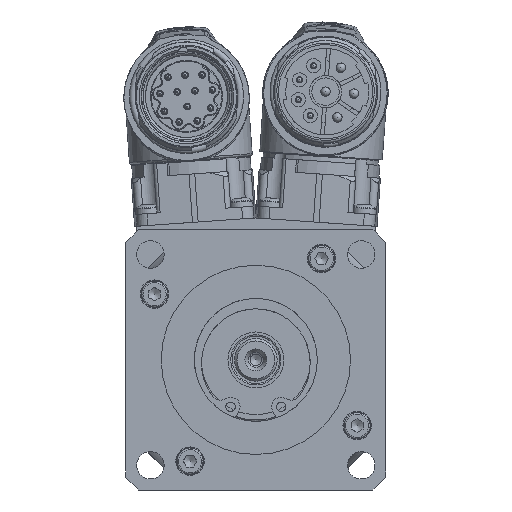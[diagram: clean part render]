
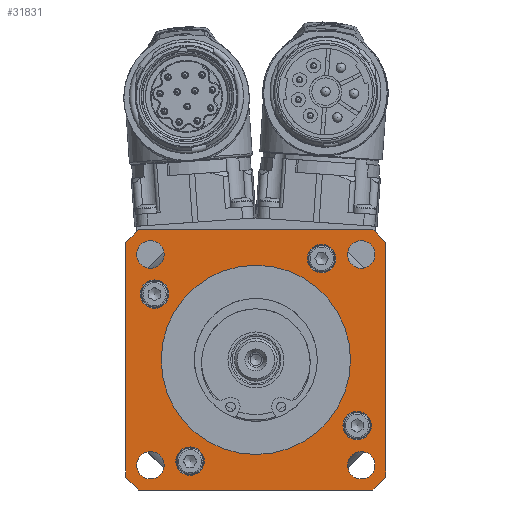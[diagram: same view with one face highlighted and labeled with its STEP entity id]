
A CAD part, left-side view. The second image highlights one B-rep face of the part: STEP entity #31831.
In plain terms, the highlighted planar face has unit normal (-1, 0, 0).
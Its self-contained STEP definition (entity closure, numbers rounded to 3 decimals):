
#1431=FACE_BOUND('',#4075,.T.);
#1432=FACE_BOUND('',#4076,.T.);
#1433=FACE_BOUND('',#4077,.T.);
#1434=FACE_BOUND('',#4078,.T.);
#1435=FACE_BOUND('',#4079,.T.);
#1436=FACE_BOUND('',#4080,.T.);
#1437=FACE_BOUND('',#4081,.T.);
#1438=FACE_BOUND('',#4082,.T.);
#1439=FACE_BOUND('',#4083,.T.);
#1683=PLANE('',#34023);
#2257=FACE_OUTER_BOUND('',#4074,.T.);
#4074=EDGE_LOOP('',(#20101,#20102,#20103,#20104,#20105,#20106,#20107,#20108));
#4075=EDGE_LOOP('',(#20109));
#4076=EDGE_LOOP('',(#20110));
#4077=EDGE_LOOP('',(#20111));
#4078=EDGE_LOOP('',(#20112));
#4079=EDGE_LOOP('',(#20113));
#4080=EDGE_LOOP('',(#20114));
#4081=EDGE_LOOP('',(#20115));
#4082=EDGE_LOOP('',(#20116));
#4083=EDGE_LOOP('',(#20117,#20118));
#6323=CIRCLE('',#34021,20.);
#6324=CIRCLE('',#34022,20.);
#6325=CIRCLE('',#34024,37.);
#6326=CIRCLE('',#34025,37.);
#6327=CIRCLE('',#34026,37.);
#6328=CIRCLE('',#34027,37.);
#6329=CIRCLE('',#34028,3.);
#6330=CIRCLE('',#34029,3.);
#6331=CIRCLE('',#34030,3.);
#6332=CIRCLE('',#34031,3.);
#6333=CIRCLE('',#34032,2.9);
#6334=CIRCLE('',#34033,2.9);
#6335=CIRCLE('',#34034,2.9);
#6336=CIRCLE('',#34035,2.9);
#8421=LINE('',#47816,#10057);
#8422=LINE('',#47820,#10058);
#8423=LINE('',#47824,#10059);
#8424=LINE('',#47828,#10060);
#10057=VECTOR('',#38331,10.);
#10058=VECTOR('',#38334,10.);
#10059=VECTOR('',#38337,10.);
#10060=VECTOR('',#38340,10.);
#11794=VERTEX_POINT('',#47808);
#11795=VERTEX_POINT('',#47809);
#11796=VERTEX_POINT('',#47814);
#11797=VERTEX_POINT('',#47815);
#11798=VERTEX_POINT('',#47817);
#11799=VERTEX_POINT('',#47819);
#11800=VERTEX_POINT('',#47821);
#11801=VERTEX_POINT('',#47823);
#11802=VERTEX_POINT('',#47825);
#11803=VERTEX_POINT('',#47827);
#11804=VERTEX_POINT('',#47830);
#11805=VERTEX_POINT('',#47832);
#11806=VERTEX_POINT('',#47834);
#11807=VERTEX_POINT('',#47836);
#11808=VERTEX_POINT('',#47838);
#11809=VERTEX_POINT('',#47840);
#11810=VERTEX_POINT('',#47842);
#11811=VERTEX_POINT('',#47844);
#15014=EDGE_CURVE('',#11794,#11795,#6323,.T.);
#15016=EDGE_CURVE('',#11795,#11794,#6324,.T.);
#15017=EDGE_CURVE('',#11796,#11797,#8421,.T.);
#15018=EDGE_CURVE('',#11798,#11796,#6325,.T.);
#15019=EDGE_CURVE('',#11799,#11798,#8422,.T.);
#15020=EDGE_CURVE('',#11800,#11799,#6326,.T.);
#15021=EDGE_CURVE('',#11801,#11800,#8423,.T.);
#15022=EDGE_CURVE('',#11802,#11801,#6327,.T.);
#15023=EDGE_CURVE('',#11803,#11802,#8424,.T.);
#15024=EDGE_CURVE('',#11797,#11803,#6328,.T.);
#15025=EDGE_CURVE('',#11804,#11804,#6329,.T.);
#15026=EDGE_CURVE('',#11805,#11805,#6330,.T.);
#15027=EDGE_CURVE('',#11806,#11806,#6331,.T.);
#15028=EDGE_CURVE('',#11807,#11807,#6332,.T.);
#15029=EDGE_CURVE('',#11808,#11808,#6333,.T.);
#15030=EDGE_CURVE('',#11809,#11809,#6334,.T.);
#15031=EDGE_CURVE('',#11810,#11810,#6335,.T.);
#15032=EDGE_CURVE('',#11811,#11811,#6336,.T.);
#20101=ORIENTED_EDGE('',*,*,#15017,.F.);
#20102=ORIENTED_EDGE('',*,*,#15018,.F.);
#20103=ORIENTED_EDGE('',*,*,#15019,.F.);
#20104=ORIENTED_EDGE('',*,*,#15020,.F.);
#20105=ORIENTED_EDGE('',*,*,#15021,.F.);
#20106=ORIENTED_EDGE('',*,*,#15022,.F.);
#20107=ORIENTED_EDGE('',*,*,#15023,.F.);
#20108=ORIENTED_EDGE('',*,*,#15024,.F.);
#20109=ORIENTED_EDGE('',*,*,#15025,.F.);
#20110=ORIENTED_EDGE('',*,*,#15026,.F.);
#20111=ORIENTED_EDGE('',*,*,#15027,.F.);
#20112=ORIENTED_EDGE('',*,*,#15028,.F.);
#20113=ORIENTED_EDGE('',*,*,#15029,.F.);
#20114=ORIENTED_EDGE('',*,*,#15030,.F.);
#20115=ORIENTED_EDGE('',*,*,#15031,.F.);
#20116=ORIENTED_EDGE('',*,*,#15032,.F.);
#20117=ORIENTED_EDGE('',*,*,#15014,.F.);
#20118=ORIENTED_EDGE('',*,*,#15016,.F.);
#31831=ADVANCED_FACE('',(#2257,#1431,#1432,#1433,#1434,#1435,#1436,#1437,
#1438,#1439),#1683,.F.);
#34021=AXIS2_PLACEMENT_3D('',#47810,#38324,#38325);
#34022=AXIS2_PLACEMENT_3D('',#47812,#38327,#38328);
#34023=AXIS2_PLACEMENT_3D('',#47813,#38329,#38330);
#34024=AXIS2_PLACEMENT_3D('',#47818,#38332,#38333);
#34025=AXIS2_PLACEMENT_3D('',#47822,#38335,#38336);
#34026=AXIS2_PLACEMENT_3D('',#47826,#38338,#38339);
#34027=AXIS2_PLACEMENT_3D('',#47829,#38341,#38342);
#34028=AXIS2_PLACEMENT_3D('',#47831,#38343,#38344);
#34029=AXIS2_PLACEMENT_3D('',#47833,#38345,#38346);
#34030=AXIS2_PLACEMENT_3D('',#47835,#38347,#38348);
#34031=AXIS2_PLACEMENT_3D('',#47837,#38349,#38350);
#34032=AXIS2_PLACEMENT_3D('',#47839,#38351,#38352);
#34033=AXIS2_PLACEMENT_3D('',#47841,#38353,#38354);
#34034=AXIS2_PLACEMENT_3D('',#47843,#38355,#38356);
#34035=AXIS2_PLACEMENT_3D('',#47845,#38357,#38358);
#38324=DIRECTION('center_axis',(-1.,0.,0.));
#38325=DIRECTION('ref_axis',(0.,0.,
1.));
#38327=DIRECTION('center_axis',(-1.,0.,0.));
#38328=DIRECTION('ref_axis',(0.,0.,
1.));
#38329=DIRECTION('center_axis',(1.,0.,0.));
#38330=DIRECTION('ref_axis',(0.,0.,
-1.));
#38331=DIRECTION('',(0.,-1.,0.));
#38332=DIRECTION('center_axis',(1.,0.,0.));
#38333=DIRECTION('ref_axis',(0.,0.,
1.));
#38334=DIRECTION('',(0.,0.,1.));
#38335=DIRECTION('center_axis',(1.,0.,0.));
#38336=DIRECTION('ref_axis',(0.,0.,
1.));
#38337=DIRECTION('',(0.,1.,0.));
#38338=DIRECTION('center_axis',(1.,0.,0.));
#38339=DIRECTION('ref_axis',(0.,0.,
1.));
#38340=DIRECTION('',(0.,0.,-1.));
#38341=DIRECTION('center_axis',(1.,0.,0.));
#38342=DIRECTION('ref_axis',(0.,0.,
1.));
#38343=DIRECTION('center_axis',(-1.,0.,0.));
#38344=DIRECTION('ref_axis',(0.,0.,
1.));
#38345=DIRECTION('center_axis',(-1.,0.,0.));
#38346=DIRECTION('ref_axis',(0.,1.,0.));
#38347=DIRECTION('center_axis',(-1.,0.,0.));
#38348=DIRECTION('ref_axis',(0.,0.,
-1.));
#38349=DIRECTION('center_axis',(-1.,0.,0.));
#38350=DIRECTION('ref_axis',(0.,-1.,0.));
#38351=DIRECTION('center_axis',(-1.,0.,0.));
#38352=DIRECTION('ref_axis',(0.,0.,
1.));
#38353=DIRECTION('center_axis',(-1.,0.,0.));
#38354=DIRECTION('ref_axis',(0.,1.,0.));
#38355=DIRECTION('center_axis',(-1.,0.,0.));
#38356=DIRECTION('ref_axis',(0.,0.,
-1.));
#38357=DIRECTION('center_axis',(-1.,0.,0.));
#38358=DIRECTION('ref_axis',(0.,-1.,0.));
#47808=CARTESIAN_POINT('',(-24.75,0.,20.));
#47809=CARTESIAN_POINT('',(-24.75,0.,-20.));
#47810=CARTESIAN_POINT('Origin',(-24.75,0.,0.));
#47812=CARTESIAN_POINT('Origin',(-24.75,0.,0.));
#47813=CARTESIAN_POINT('Origin',(-24.75,0.,49.909));
#47814=CARTESIAN_POINT('',(-24.75,24.754,27.5));
#47815=CARTESIAN_POINT('',(-24.75,-24.754,27.5));
#47816=CARTESIAN_POINT('',(-24.75,13.75,27.5));
#47817=CARTESIAN_POINT('',(-24.75,27.5,24.754));
#47818=CARTESIAN_POINT('Origin',(-24.75,0.,0.));
#47819=CARTESIAN_POINT('',(-24.75,27.5,-24.754));
#47820=CARTESIAN_POINT('',(-24.75,27.5,11.204));
#47821=CARTESIAN_POINT('',(-24.75,24.754,-27.5));
#47822=CARTESIAN_POINT('Origin',(-24.75,0.,0.));
#47823=CARTESIAN_POINT('',(-24.75,-24.754,-27.5));
#47824=CARTESIAN_POINT('',(-24.75,-13.75,-27.5));
#47825=CARTESIAN_POINT('',(-24.75,-27.5,-24.754));
#47826=CARTESIAN_POINT('Origin',(-24.75,0.,0.));
#47827=CARTESIAN_POINT('',(-24.75,-27.5,24.754));
#47828=CARTESIAN_POINT('',(-24.75,-27.5,38.704));
#47829=CARTESIAN_POINT('Origin',(-24.75,0.,0.));
#47830=CARTESIAN_POINT('',(-24.75,21.4,10.9));
#47831=CARTESIAN_POINT('Origin',(-24.75,21.4,13.9));
#47832=CARTESIAN_POINT('',(-24.75,10.9,-21.4));
#47833=CARTESIAN_POINT('Origin',(-24.75,13.9,-21.4));
#47834=CARTESIAN_POINT('',(-24.75,-21.4,-10.9));
#47835=CARTESIAN_POINT('Origin',(-24.75,-21.4,-13.9));
#47836=CARTESIAN_POINT('',(-24.75,-10.9,21.4));
#47837=CARTESIAN_POINT('Origin',(-24.75,-13.9,21.4));
#47838=CARTESIAN_POINT('',(-24.75,22.274,-25.174));
#47839=CARTESIAN_POINT('Origin',(-24.75,22.274,-22.274));
#47840=CARTESIAN_POINT('',(-24.75,-25.174,-22.274));
#47841=CARTESIAN_POINT('Origin',(-24.75,-22.274,-22.274));
#47842=CARTESIAN_POINT('',(-24.75,-22.274,25.174));
#47843=CARTESIAN_POINT('Origin',(-24.75,-22.274,22.274));
#47844=CARTESIAN_POINT('',(-24.75,25.174,22.274));
#47845=CARTESIAN_POINT('Origin',(-24.75,22.274,22.274));
